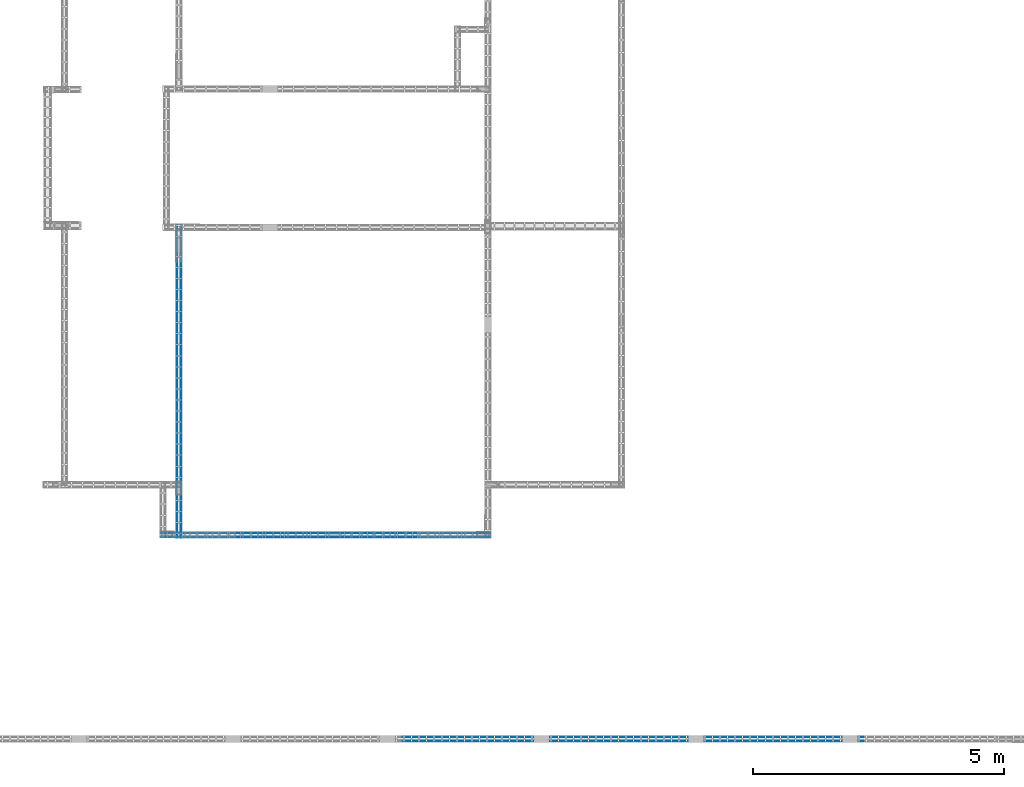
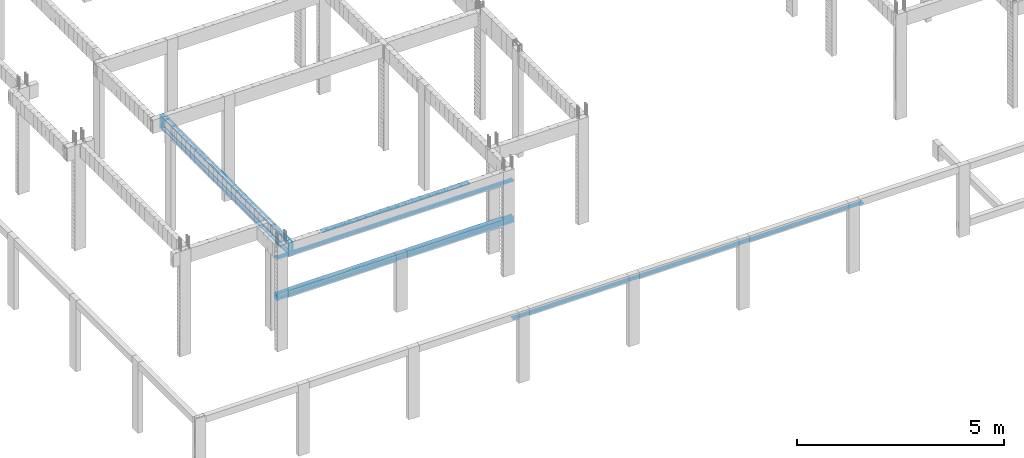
# One storey, part 16 of 236: 14 reinforcing bars.
"""IFC4 building model written with IfcOpenShell, lengths in centimetres."""

import ifcopenshell
import ifcopenshell.guid

model = None  # the IFC model being written
_history = None  # IfcOwnerHistory: only IFC2X3 demands one
_inside = {}  # id of a spatial element -> (the spatial element, [elements in it])
_under = {}  # id of a project, library or spatial element -> (it, [spatial elements below it])
_declared = {}  # id of a project -> (the project, [libraries it declares])
_typed = {}  # id of a type object -> (the type object, [elements of that type])
_made_of = {}  # id of a material, layer set ... -> (it, [elements and type objects made of it])


def new_model(schema):
    """Start an empty IFC model of exactly this schema.

    Asked for "IFC4X3", IfcOpenShell would pick the latest addendum, in which some entities
    have other attributes; the version numbers below select the first issue.
    IFC2X3 requires an IfcOwnerHistory on every rooted entity: one is made here for all.
    """
    global model, _history
    if schema == "IFC4X3":
        model = ifcopenshell.file(schema_version=(4, 3, 0, 0))
    else:
        model = ifcopenshell.file(schema=schema)
    _inside.clear()
    _under.clear()
    _declared.clear()
    _typed.clear()
    _made_of.clear()
    _history = None
    if model.schema == "IFC2X3":
        org = make("IfcOrganization", Name="unknown")
        user = make(
            "IfcPersonAndOrganization",
            ThePerson=make("IfcPerson", FamilyName="unknown"),
            TheOrganization=org,
        )
        app = make(
            "IfcApplication",
            ApplicationDeveloper=org,
            Version="unknown",
            ApplicationFullName="unknown",
            ApplicationIdentifier="unknown",
        )
        _history = make(
            "IfcOwnerHistory",
            OwningUser=user,
            OwningApplication=app,
            ChangeAction="ADDED",
            CreationDate=0,
        )
    return model


def make(cls, **values):
    """One entity of the class cls with the attributes given. An attribute that is None is left unset."""
    return model.create_entity(
        cls, **{name: value for name, value in values.items() if value is not None}
    )


def entity(cls, *values):
    """Any entity or typed value of the class cls, its attributes in the order of the schema. None: left unset."""
    e = model.create_entity(cls)
    for i, value in enumerate(values):
        if value is not None:
            e[i] = value
    return e


def rooted(cls, **values):
    """An entity with a GlobalId (a new one), such as an element, a storey or a relation."""
    return make(cls, GlobalId=ifcopenshell.guid.new(), OwnerHistory=_history, **values)


def si_unit(unit_type, name, prefix=None):
    """IfcSIUnit, for example si_unit("LENGTHUNIT", "METRE", prefix="MILLI")."""
    return make("IfcSIUnit", UnitType=unit_type, Prefix=prefix, Name=name)


def derived_unit(unit_type, elements):
    """IfcDerivedUnit: a product of units, each with its exponent."""
    return make(
        "IfcDerivedUnit",
        Elements=[
            make("IfcDerivedUnitElement", Unit=unit, Exponent=power)
            for unit, power in elements
        ],
        UnitType=unit_type,
    )


def assignment(units):
    """IfcUnitAssignment: the units of a project."""
    return None if units is None else make("IfcUnitAssignment", Units=units)


def point(xyz):
    """IfcCartesianPoint."""
    return None if xyz is None else make("IfcCartesianPoint", Coordinates=xyz)


def direction(xyz):
    """IfcDirection."""
    return None if xyz is None else make("IfcDirection", DirectionRatios=xyz)


def frame(location, z_axis=None, x_axis=None):
    """IfcAxis2Placement3D, a coordinate frame: its origin and axes. An axis left out is left unset."""
    return make(
        "IfcAxis2Placement3D",
        Location=point(location),
        Axis=direction(z_axis),
        RefDirection=direction(x_axis),
    )


def origin_with_axes():
    """The frame at (0, 0, 0) with the z axis (0, 0, 1) and the x axis (1, 0, 0) written out."""
    return frame((0.0, 0.0, 0.0), z_axis=(0.0, 0.0, 1.0), x_axis=(1.0, 0.0, 0.0))


def place(relative_to, where):
    """IfcLocalPlacement: puts the frame where relative to a parent placement (None: the world)."""
    return make(
        "IfcLocalPlacement", PlacementRelTo=relative_to, RelativePlacement=where
    )


def context(
    kind, dimensions, precision=None, world=None, true_north=None, identifier=None
):
    """IfcGeometricRepresentationContext, for example the 3D "Model" context."""
    return make(
        "IfcGeometricRepresentationContext",
        ContextIdentifier=identifier,
        ContextType=kind,
        CoordinateSpaceDimension=dimensions,
        Precision=precision,
        WorldCoordinateSystem=world,
        TrueNorth=true_north,
    )


def project(units=None, contexts=None):
    """IfcProject with its units and contexts."""
    return rooted(
        "IfcProject",
        Name="project",
        RepresentationContexts=contexts,
        UnitsInContext=assignment(units),
    )


def spatial(cls, under=None, at=None, **own):
    """A site, building, storey or space (cls), placed at a placement, below another one or the project."""
    s = rooted(cls, ObjectPlacement=at, **own)
    if under is not None:
        _under.setdefault(under.id(), (under, []))[1].append(s)
    return s


def shape(context_of_items, identifier, shape_type, items):
    """IfcShapeRepresentation: the items that make up one representation, for example the "Body"."""
    return make(
        "IfcShapeRepresentation",
        ContextOfItems=context_of_items,
        RepresentationIdentifier=identifier,
        RepresentationType=shape_type,
        Items=items,
    )


def made_of(thing, what):
    """Note that an element or type object is made of a material, layer set ...; save() writes the relation."""
    if what is not None:
        _made_of.setdefault(what.id(), (what, []))[1].append(thing)
    return thing


def element(
    cls,
    number,
    at=None,
    inside=None,
    cuts=None,
    type_object=None,
    material=None,
    context=None,
    identifier="Body",
    shape_type=None,
    held_by="IfcProductDefinitionShape",
    body=None,
    shapes=None,
    **own,
):
    """One element of the class cls, such as IfcWall. Its Tag is "e" and its number.

    at: its placement. inside: the storey or other place that contains it. cuts: it is an
    opening in that element (IfcRelVoidsElement). A single representation is given by context,
    identifier, shape_type and body (its items); several are given by shapes. held_by: the class
    of the entity that holds the representations. save() writes the other relations.
    """
    e = rooted(cls, Tag="e%d" % number, ObjectPlacement=at, **own)
    if body is not None:
        shapes = [shape(context, identifier, shape_type, body)]
    if shapes is not None:
        e.Representation = make(held_by, Representations=shapes)
    if inside is not None:
        _inside.setdefault(inside.id(), (inside, []))[1].append(e)
    if cuts is not None:
        rooted(
            "IfcRelVoidsElement", RelatingBuildingElement=cuts, RelatedOpeningElement=e
        )
    if type_object is not None:
        _typed.setdefault(type_object.id(), (type_object, []))[1].append(e)
    return made_of(e, material)


def aggregate(whole, parts):
    """IfcRelAggregates: a whole, such as a stair, and the parts it consists of."""
    return rooted("IfcRelAggregates", RelatingObject=whole, RelatedObjects=parts)


def save(model, path):
    """Write the relations noted so far, then the file.

    IfcRelAggregates (storeys below a building ...), IfcRelContainedInSpatialStructure (elements
    in a storey), IfcRelDefinesByType, IfcRelAssociatesMaterial and IfcRelDeclares: one each for
    every whole, place, type object, material and project.
    """
    for whole, parts in _under.values():
        aggregate(whole, parts)
    for where, things in _inside.values():
        rooted(
            "IfcRelContainedInSpatialStructure",
            RelatedElements=things,
            RelatingStructure=where,
        )
    for kind, things in _typed.values():
        rooted("IfcRelDefinesByType", RelatedObjects=things, RelatingType=kind)
    for what, things in _made_of.values():
        rooted("IfcRelAssociatesMaterial", RelatedObjects=things, RelatingMaterial=what)
    for by, libraries in _declared.values():
        rooted("IfcRelDeclares", RelatingContext=by, RelatedDefinitions=libraries)
    model.write(path)


model = new_model("IFC4")

# Units and contexts
model_context = context("Model", 3, precision=1e-05, world=origin_with_axes(), identifier="Body")
ifc_project = project(units=[si_unit("LENGTHUNIT", "METRE", prefix="CENTI"), si_unit("VOLUMEUNIT", "CUBIC_METRE"), si_unit("AREAUNIT", "SQUARE_METRE"), si_unit("POWERUNIT", "WATT"), si_unit("LUMINOUSFLUXUNIT", "LUMEN"), si_unit("ELECTRICCURRENTUNIT", "AMPERE"), si_unit("PRESSUREUNIT", "PASCAL", prefix="KILO"), si_unit("MASSUNIT", "GRAM", prefix="KILO"), si_unit("PLANEANGLEUNIT", "RADIAN"), derived_unit("VOLUMETRICFLOWRATEUNIT", [(si_unit("LENGTHUNIT", "METRE"), 3), (si_unit("TIMEUNIT", "SECOND"), -1)])], contexts=[model_context])

# Site, building, storey
site_placement = place(None, frame((-4000.0, 0.0, 0.0), z_axis=(0.0, 0.0, 1.0), x_axis=(1.0, 0.0, 0.0)))
site = spatial("IfcSite", under=ifc_project, at=site_placement, Name="PADRÃO")
building_placement = place(site_placement, frame((0.0, 0.0, -14.0)))
building = spatial("IfcBuilding", under=site, at=building_placement, Name="CRECHE PRÉ-ESCOLA TIPO 2")
placement_1 = place(building_placement, origin_with_axes())
placement_2 = place(placement_1, frame((0.0, 0.0, 30.0), z_axis=(0.0, 0.0, 1.0), x_axis=(1.0, 0.0, 0.0)))
storey_placement = place(placement_2, frame((0.0, 0.0, 310.0), z_axis=(0.0, 0.0, 1.0), x_axis=(1.0, 0.0, 0.0)))
storey = spatial("IfcBuildingStorey", under=building, at=storey_placement, Name="TERREO", CompositionType="ELEMENT", Elevation=326.0)

# Reinforcing bars
for number, where, z_axis, x_axis, name in (
    (1, (797.144926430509, 419.255029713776, -2.5), (0.0, 0.0, 1.0), (1.0, 0.0, 0.0), "V257 - Longitudinal construtiva"),
    (2, (797.145065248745, 410.75502971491, -2.5), (0.0, 0.0, 1.0), (1.0, 0.0, 0.0), "V257 - Longitudinal construtiva"),
):
    element("IfcReinforcingBar", number, at=place(storey_placement, frame(where, z_axis=z_axis, x_axis=x_axis)), inside=storey, Name=name, BarLength=0.0, CrossSectionArea=1.9634954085e-05, NominalDiameter=0.5, PredefinedType="MAIN", context=model_context, shape_type="AdvancedSweptSolid", body=[
        entity("IfcSweptDiskSolid", entity("IfcCompositeCurve", [entity("IfcCompositeCurveSegment", "CONTINUOUS", True, entity("IfcPolyline", [entity("IfcCartesianPoint", [-203.574995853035, -0.003388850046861, -0.25]), entity("IfcCartesianPoint", [203.57500417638, 0.003388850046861, -0.25])]))], False), 0.25),
    ])
for number, where, z_axis, x_axis, name in (
    (3, (795.359926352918, 419.005, -36.5), (0.0, 0.0, 1.0), (1.0, 0.0, 0.0), "V257 - Longitudinal inferior"),
    (4, (795.360057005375, 411.005, -36.5), (0.0, 0.0, 1.0), (1.0, 0.0, 0.0), "V257 - Longitudinal inferior"),
):
    element("IfcReinforcingBar", number, at=place(storey_placement, frame(where, z_axis=z_axis, x_axis=x_axis)), inside=storey, Name=name, BarLength=0.0, CrossSectionArea=7.853981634e-05, NominalDiameter=1.0, PredefinedType="MAIN", context=model_context, shape_type="AdvancedSweptSolid", body=[
        entity("IfcSweptDiskSolid", entity("IfcCompositeCurve", [entity("IfcCompositeCurveSegment", "CONTINUOUS", True, entity("IfcPolyline", [entity("IfcCartesianPoint", [-328.359991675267, -0.005466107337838, -0.5]), entity("IfcCartesianPoint", [328.360008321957, 0.005466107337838, -0.5])]))], False), 0.5),
    ])
for number, where, z_axis, x_axis, name in (
    (5, (507.67, 721.255, -14.8022873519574), (0.0, 0.0, 1.0), (1.0, 0.0, 0.0), "V265 - Longitudinal inferior"),
    (6, (499.47, 721.255, -14.8022873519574), (0.0, 0.0, 1.0), (1.0, 0.0, 0.0), "V265 - Longitudinal inferior"),
):
    element("IfcReinforcingBar", number, at=place(storey_placement, frame(where, z_axis=z_axis, x_axis=x_axis)), inside=storey, Name=name, BarLength=0.0, CrossSectionArea=5.0265482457e-05, NominalDiameter=0.8, PredefinedType="MAIN", context=model_context, shape_type="AdvancedSweptSolid", body=[
        entity("IfcSweptDiskSolid", entity("IfcCompositeCurve", [entity("IfcCompositeCurveSegment", "CONTINUOUS", True, entity("IfcPolyline", [entity("IfcCartesianPoint", [0.0, -310.855, 0.0]), entity("IfcCartesianPoint", [0.0, -310.855, -22.2977126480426])])), entity("IfcCompositeCurveSegment", "CONTINUOUS", True, entity("IfcPolyline", [entity("IfcCartesianPoint", [0.0, -310.855, -22.2977126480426]), entity("IfcCartesianPoint", [0.0, 310.855, -22.2977126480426])])), entity("IfcCompositeCurveSegment", "CONTINUOUS", True, entity("IfcPolyline", [entity("IfcCartesianPoint", [0.0, 310.855, -22.2977126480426]), entity("IfcCartesianPoint", [0.0, 310.855, 0.0])]))], False), 0.4),
    ])
for number, where, z_axis, x_axis, name in (
    (7, (499.57, 721.255, -2.49531217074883), (0.0, 0.0, 1.0), (1.0, 0.0, 0.0), "V265 - Longitudinal superior"),
    (8, (507.57, 721.255, -2.49531217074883), (0.0, 0.0, 1.0), (1.0, 0.0, 0.0), "V265 - Longitudinal superior"),
):
    element("IfcReinforcingBar", number, at=place(storey_placement, frame(where, z_axis=z_axis, x_axis=x_axis)), inside=storey, Name=name, BarLength=0.0, CrossSectionArea=7.853981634e-05, NominalDiameter=1.0, PredefinedType="MAIN", context=model_context, shape_type="AdvancedSweptSolid", body=[
        entity("IfcSweptDiskSolid", entity("IfcCompositeCurve", [entity("IfcCompositeCurveSegment", "CONTINUOUS", True, entity("IfcPolyline", [entity("IfcCartesianPoint", [0.0, -310.755, -36.5046878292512]), entity("IfcCartesianPoint", [0.0, -310.755, -0.504687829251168])])), entity("IfcCompositeCurveSegment", "CONTINUOUS", True, entity("IfcPolyline", [entity("IfcCartesianPoint", [0.0, -310.755, -0.504687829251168]), entity("IfcCartesianPoint", [0.0, 310.755, -0.504687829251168])])), entity("IfcCompositeCurveSegment", "CONTINUOUS", True, entity("IfcPolyline", [entity("IfcCartesianPoint", [0.0, 310.755, -0.504687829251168]), entity("IfcCartesianPoint", [0.0, 310.755, -36.5046878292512])]))], False), 0.5),
    ])
for number, where, z_axis, x_axis, name in (
    (9, (795.359850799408, 419.109952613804, -156.7), (0.0, 0.0, 1.0), (1.0, 0.0, 0.0), "V321 - Longitudinal inferior"),
    (10, (795.360122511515, 410.909952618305, -156.7), (0.0, 0.0, 1.0), (1.0, 0.0, 0.0), "V321 - Longitudinal inferior"),
):
    element("IfcReinforcingBar", number, at=place(storey_placement, frame(where, z_axis=z_axis, x_axis=x_axis)), inside=storey, Name=name, BarLength=0.0, CrossSectionArea=5.0265482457e-05, NominalDiameter=0.8, PredefinedType="MAIN", context=model_context, shape_type="AdvancedSweptSolid", body=[
        entity("IfcSweptDiskSolid", entity("IfcCompositeCurve", [entity("IfcCompositeCurveSegment", "CONTINUOUS", True, entity("IfcPolyline", [entity("IfcCartesianPoint", [-328.35998665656, -0.010880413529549, -0.4]), entity("IfcCartesianPoint", [328.360013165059, 0.010880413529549, -0.4])]))], False), 0.4),
    ])
for number, where, z_axis, x_axis, name in (
    (11, (795.359864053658, 419.109952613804, -142.496249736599), (0.0, 0.0, 1.0), (1.0, 0.0, 0.0), "V321 - Longitudinal superior"),
    (12, (795.360135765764, 410.909952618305, -142.496249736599), (0.0, 0.0, 1.0), (1.0, 0.0, 0.0), "V321 - Longitudinal superior"),
):
    element("IfcReinforcingBar", number, at=place(storey_placement, frame(where, z_axis=z_axis, x_axis=x_axis)), inside=storey, Name=name, BarLength=0.0, CrossSectionArea=5.0265482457e-05, NominalDiameter=0.8, PredefinedType="MAIN", context=model_context, shape_type="AdvancedSweptSolid", body=[
        entity("IfcSweptDiskSolid", entity("IfcCompositeCurve", [entity("IfcCompositeCurveSegment", "CONTINUOUS", True, entity("IfcPolyline", [entity("IfcCartesianPoint", [-327.96, -0.01086715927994, -10.403750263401]), entity("IfcCartesianPoint", [-327.96, -0.01086715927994, -0.403750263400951])])), entity("IfcCompositeCurveSegment", "CONTINUOUS", True, entity("IfcPolyline", [entity("IfcCartesianPoint", [-327.96, -0.01086715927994, -0.403750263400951]), entity("IfcCartesianPoint", [327.96, 0.01086715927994, -0.403750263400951])])), entity("IfcCompositeCurveSegment", "CONTINUOUS", True, entity("IfcPolyline", [entity("IfcCartesianPoint", [327.96, 0.01086715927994, -0.403750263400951]), entity("IfcCartesianPoint", [327.96, 0.01086715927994, -10.403750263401])]))], False), 0.4),
    ])
for number, where, z_axis, x_axis, name in (
    (13, (1379.0, 4.9, -116.7), (0.0, 0.0, 1.0), (1.0, 0.0, 0.0), "V323 - Longitudinal inferior"),
    (14, (1379.0, 13.1, -116.7), (0.0, 0.0, 1.0), (1.0, 0.0, 0.0), "V323 - Longitudinal inferior"),
):
    element("IfcReinforcingBar", number, at=place(storey_placement, frame(where, z_axis=z_axis, x_axis=x_axis)), inside=storey, Name=name, BarLength=0.0, CrossSectionArea=5.0265482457e-05, NominalDiameter=0.8, PredefinedType="MAIN", context=model_context, shape_type="AdvancedSweptSolid", body=[
        entity("IfcSweptDiskSolid", entity("IfcCompositeCurve", [entity("IfcCompositeCurveSegment", "CONTINUOUS", True, entity("IfcPolyline", [entity("IfcCartesianPoint", [-487.185840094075, 0.0, -0.4]), entity("IfcCartesianPoint", [487.185840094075, 0.0, -0.4])]))], False), 0.4),
    ])

save(model, "model.ifc")
